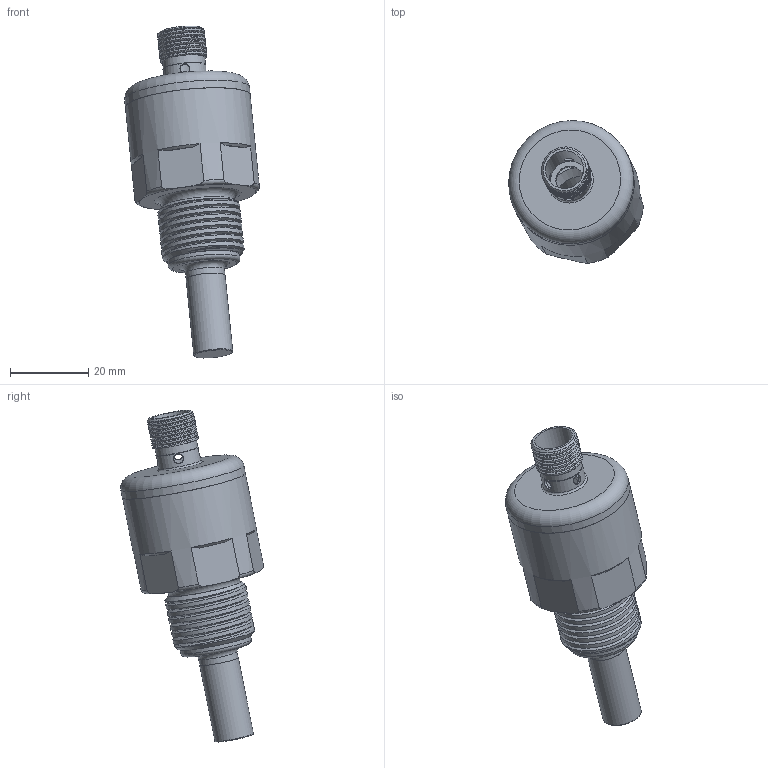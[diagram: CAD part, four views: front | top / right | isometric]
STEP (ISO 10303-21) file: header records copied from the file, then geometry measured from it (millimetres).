
FILE_DESCRIPTION (( 'STEP AP214' ), '1' );
FILE_NAME ('热式流量简易款.STEP', '2025-06-10T01:34:39', ( '' ), ( '' ), 'SwSTEP 2.0', 'SolidWorks 2023', '' );
FILE_SCHEMA (( 'AUTOMOTIVE_DESIGN' ));
Length unit declared in the file: millimetre
Products named in the file (4): L-JJGFHB001; L-JJGFHB002; 热式流量简易款; 123
Assembly tree (3 placements, depth 2):
  热式流量简易款
    L-JJGFHB002
    123
    L-JJGFHB001
Bounding box: 34.36 x 36.4 x 84.69 mm (x, y, z)
Volume: 10322.4 mm3; surface area: 13433.9 mm2
Topology: 3 solids, 3 shells, 93 faces, 212 edges, 141 vertices
Faces by surface type: plane 35, cylinder 24, cone 16, torus 14, bspline 4
Full cylindrical faces by diameter (mm): 2.5 x4, 7.2 x1, 8 x1, 9 x2, 9.795 x1, 10 x2, 10.8 x1, 11 x1, 14 x1, 18.4 x1, 26 x2, 28.5 x1, 29.95 x1, 30 x1, 32 x2
Entity records: 5639 total; most frequent: CARTESIAN_POINT 3724, DIRECTION 377, ORIENTED_EDGE 302, AXIS2_PLACEMENT_3D 176, EDGE_LOOP 160, EDGE_CURVE 151, FACE_OUTER_BOUND 123, VERTEX_POINT 119
